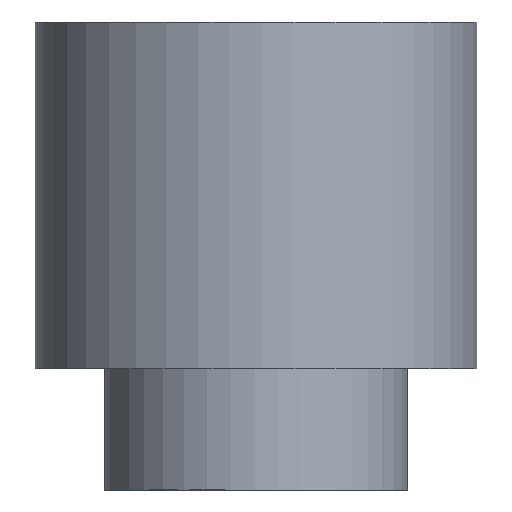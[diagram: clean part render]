
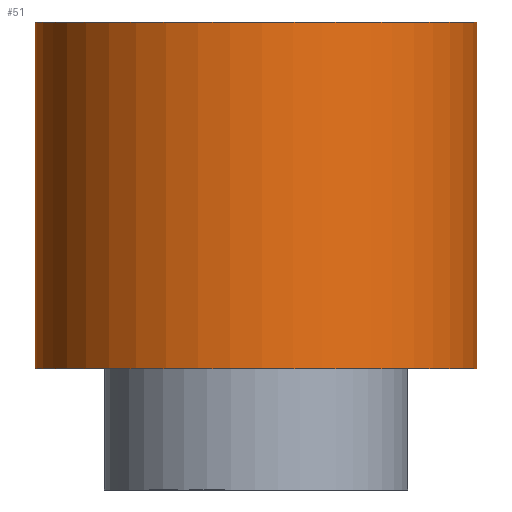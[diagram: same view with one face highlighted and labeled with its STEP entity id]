
A CAD part, front view. The second image highlights one B-rep face of the part: STEP entity #51.
In plain terms, the highlighted free-form (B-spline) face has degree [2, 1] with [7, 2] control points.
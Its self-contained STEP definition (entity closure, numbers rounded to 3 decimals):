
#35 = EDGE_CURVE('',#36,#36,#38,.T.);
#36 = VERTEX_POINT('',#37);
#37 = CARTESIAN_POINT('',(-2.55,0.,4.));
#38 = ( BOUNDED_CURVE() B_SPLINE_CURVE(2,(#39,#40,#41,#42,#43,#44,#45),
.UNSPECIFIED.,.T.,.F.) B_SPLINE_CURVE_WITH_KNOTS((1,2,2,2,2,1),(
    -2.094,0.,2.094,4.189,6.283,
8.378),.UNSPECIFIED.) CURVE() GEOMETRIC_REPRESENTATION_ITEM() 
RATIONAL_B_SPLINE_CURVE((1.,0.5,1.,0.5,1.,0.5,1.)) REPRESENTATION_ITEM(
  '') );
#39 = CARTESIAN_POINT('',(-2.55,0.,4.));
#40 = CARTESIAN_POINT('',(-2.55,4.417,4.));
#41 = CARTESIAN_POINT('',(1.275,2.208,4.));
#42 = CARTESIAN_POINT('',(5.1,0.,4.));
#43 = CARTESIAN_POINT('',(1.275,-2.208,4.));
#44 = CARTESIAN_POINT('',(-2.55,-4.417,4.));
#45 = CARTESIAN_POINT('',(-2.55,0.,4.));
#51 = ADVANCED_FACE('',(#52),#73,.T.);
#52 = FACE_BOUND('',#53,.T.);
#53 = EDGE_LOOP('',(#54,#55,#62,#72));
#54 = ORIENTED_EDGE('',*,*,#35,.T.);
#55 = ORIENTED_EDGE('',*,*,#56,.F.);
#56 = EDGE_CURVE('',#57,#36,#59,.T.);
#57 = VERTEX_POINT('',#58);
#58 = CARTESIAN_POINT('',(-2.55,0.,0.));
#59 = B_SPLINE_CURVE_WITH_KNOTS('',1,(#60,#61),.UNSPECIFIED.,.F.,.F.,(2,
    2),(-5.,-1.),.PIECEWISE_BEZIER_KNOTS.);
#60 = CARTESIAN_POINT('',(-2.55,0.,0.));
#61 = CARTESIAN_POINT('',(-2.55,0.,4.));
#62 = ORIENTED_EDGE('',*,*,#63,.F.);
#63 = EDGE_CURVE('',#57,#57,#64,.T.);
#64 = ( BOUNDED_CURVE() B_SPLINE_CURVE(2,(#65,#66,#67,#68,#69,#70,#71),
.UNSPECIFIED.,.T.,.F.) B_SPLINE_CURVE_WITH_KNOTS((1,2,2,2,2,1),(
    -2.094,0.,2.094,4.189,6.283,
8.378),.UNSPECIFIED.) CURVE() GEOMETRIC_REPRESENTATION_ITEM() 
RATIONAL_B_SPLINE_CURVE((1.,0.5,1.,0.5,1.,0.5,1.)) REPRESENTATION_ITEM(
  '') );
#65 = CARTESIAN_POINT('',(-2.55,0.,0.));
#66 = CARTESIAN_POINT('',(-2.55,4.417,0.));
#67 = CARTESIAN_POINT('',(1.275,2.208,0.));
#68 = CARTESIAN_POINT('',(5.1,0.,0.));
#69 = CARTESIAN_POINT('',(1.275,-2.208,0.));
#70 = CARTESIAN_POINT('',(-2.55,-4.417,0.));
#71 = CARTESIAN_POINT('',(-2.55,0.,0.));
#72 = ORIENTED_EDGE('',*,*,#56,.T.);
#73 = ( BOUNDED_SURFACE() B_SPLINE_SURFACE(2,1,(
    (#74,#75)
    ,(#76,#77)
    ,(#78,#79)
    ,(#80,#81)
    ,(#82,#83)
    ,(#84,#85)
,(#86,#87
    )),.UNSPECIFIED.,.T.,.F.,.F.) B_SPLINE_SURFACE_WITH_KNOTS((1,2,2,2,2
    ,1),(2,2),(-2.094,0.,2.094,4.189,
    6.283,8.378),(-5.,-1.),.UNSPECIFIED.) 
GEOMETRIC_REPRESENTATION_ITEM() RATIONAL_B_SPLINE_SURFACE((
    (1.,1.)
    ,(0.5,0.5)
    ,(1.,1.)
    ,(0.5,0.5)
    ,(1.,1.)
    ,(0.5,0.5)
,(1.,1.))) REPRESENTATION_ITEM('') SURFACE() );
#74 = CARTESIAN_POINT('',(-2.55,0.,0.));
#75 = CARTESIAN_POINT('',(-2.55,0.,4.));
#76 = CARTESIAN_POINT('',(-2.55,-4.417,0.));
#77 = CARTESIAN_POINT('',(-2.55,-4.417,4.));
#78 = CARTESIAN_POINT('',(1.275,-2.208,0.));
#79 = CARTESIAN_POINT('',(1.275,-2.208,4.));
#80 = CARTESIAN_POINT('',(5.1,0.,0.));
#81 = CARTESIAN_POINT('',(5.1,0.,4.));
#82 = CARTESIAN_POINT('',(1.275,2.208,0.));
#83 = CARTESIAN_POINT('',(1.275,2.208,4.));
#84 = CARTESIAN_POINT('',(-2.55,4.417,0.));
#85 = CARTESIAN_POINT('',(-2.55,4.417,4.));
#86 = CARTESIAN_POINT('',(-2.55,0.,0.));
#87 = CARTESIAN_POINT('',(-2.55,0.,4.));
